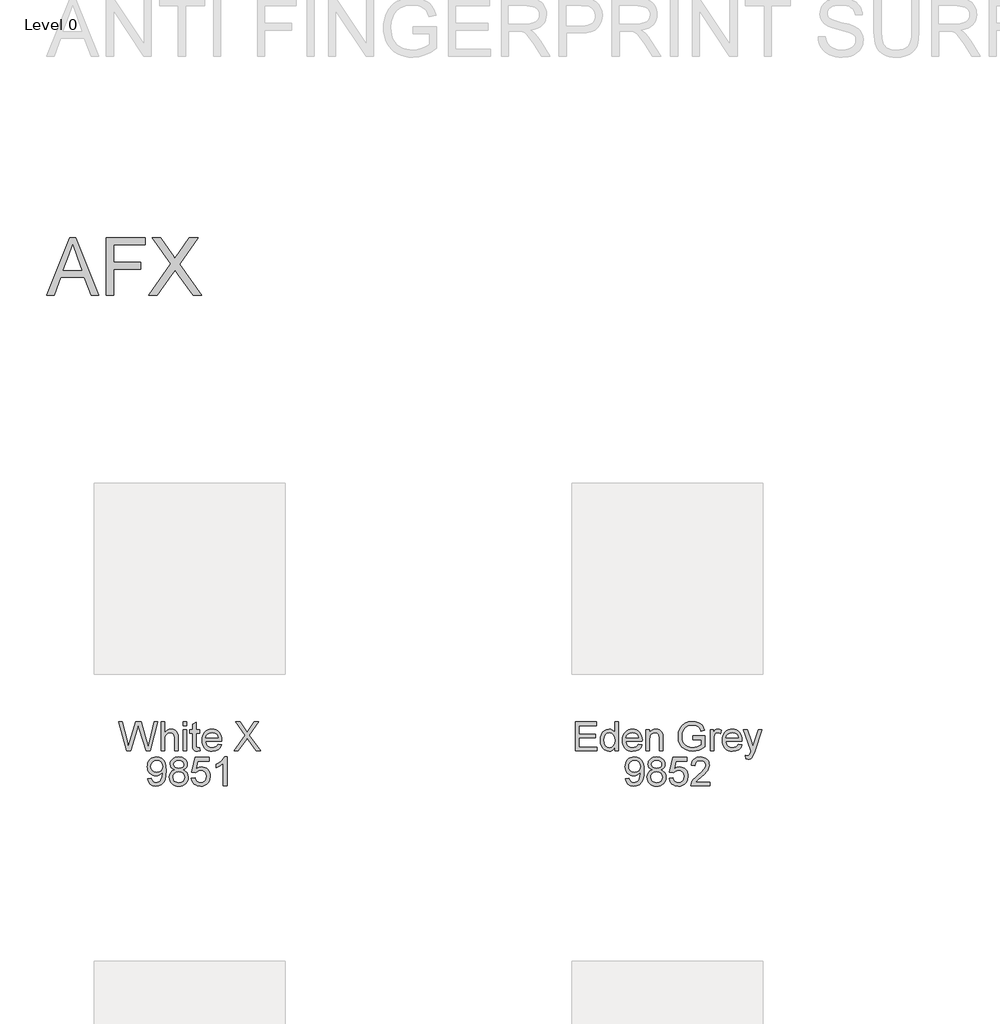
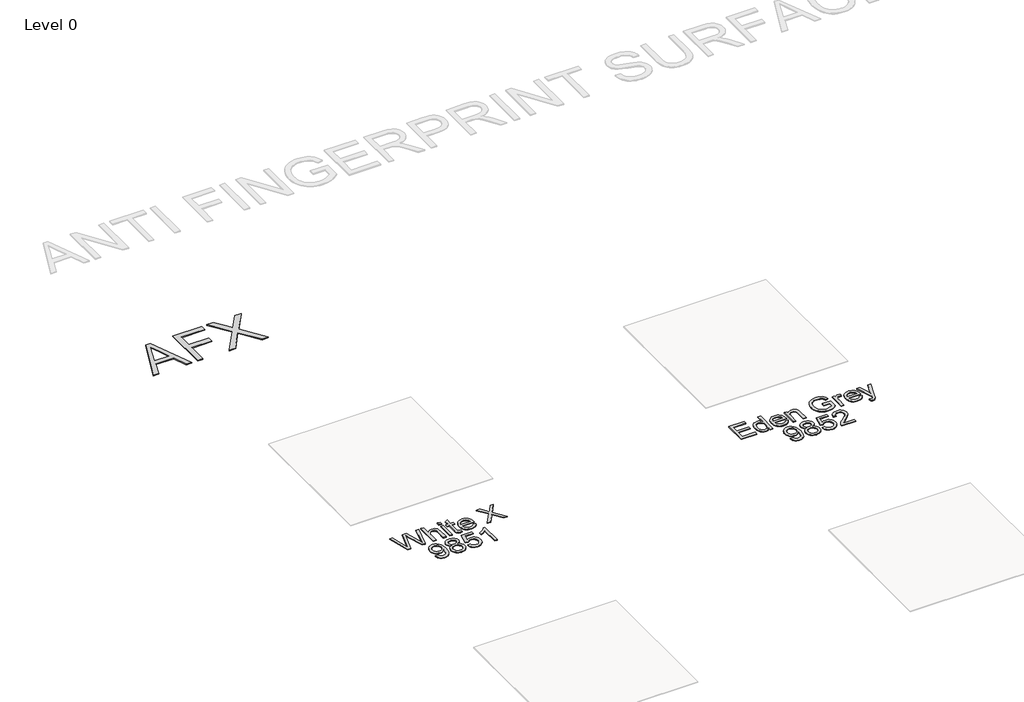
# One storey, part 3 of 8: 3 proxies.
"""IFC4 building model written with IfcOpenShell, lengths in millimetres."""

from ifc_helpers import new_model, si_unit, origin, origin_with_axes, place, context, project, spatial, polyline, outline, extrude, element, save

model = new_model("IFC4")

# Units and contexts
model_context = context("Model", 3, world=origin())
ifc_project = project(units=[si_unit("LENGTHUNIT", "METRE", prefix="MILLI")], contexts=[model_context])

# Site, building, storey
site = spatial("IfcSite", under=ifc_project)
building = spatial("IfcBuilding", under=site)
storey = spatial("IfcBuildingStorey", under=building, Name="Level 0", Elevation=0.0)

# Proxies
placement = place(None, origin())
element("IfcBuildingElementProxy", 1, Name="300mm Arial", ObjectType="300mm Arial", at=placement, inside=storey, context=model_context, shape_type="SweptSolid", body=[
    extrude(outline(polyline([(-10110.1233209, -7002.860494), (-10192.3081586, -6701.4915635), (-10153.4598199, -6701.4915635), (-10105.7823133, -6899.5592297), (-10091.0670335, -6960.7012173), (-10075.3216841, -6906.622564), (-10015.5776481, -6701.4915635), (-9959.5860084, -6701.4915635), (-9916.175933, -6850.189466), (-9897.5794981, -6905.3717653), (-9883.8758938, -6960.7012173), (-9869.6020724, -6901.3250633), (-9821.4831074, -6701.4915635), (-9782.6347688, -6701.4915635), (-9864.8931829, -7002.860494), (-9905.1394731, -7002.860494), (-9977.391497, -6770.359073), (-9987.4714637, -6737.9118811), (-9998.8022291, -6776.9809489), (-10064.6531063, -7002.860494), (-10110.1233209, -7002.860494)])), origin_with_axes(), (0.0, 0.0, 1.0), 10.0),
    extrude(outline(polyline([(-9749.672542, -7002.860494), (-9749.672542, -6701.4915635), (-9712.0014257, -6701.4915635), (-9712.0014257, -6812.2976205), (-9698.1644641, -6796.7821973), (-9682.6260484, -6785.6997522), (-9665.3861784, -6779.0502852), (-9646.4448541, -6776.8337961), (-9623.6913527, -6779.2526203), (-9604.1384247, -6786.5090926), (-9588.7425632, -6798.0329961), (-9578.4602614, -6813.2541137), (-9572.66612, -6834.1682051), (-9570.7347395, -6862.7710302), (-9570.7347395, -7002.860494), (-9608.4058558, -7002.860494), (-9608.4058558, -6866.6705794), (-9611.4040941, -6843.0893435), (-9620.3988089, -6826.9393239), (-9634.8933595, -6817.6135153), (-9654.3911052, -6814.5049125), (-9670.3111986, -6816.6018398), (-9685.2564046, -6822.8926219), (-9697.6356338, -6832.7702535), (-9705.8577964, -6845.6277292), (-9710.4655184, -6862.7158479), (-9712.0014257, -6885.2854083), (-9712.0014257, -7002.860494), (-9749.672542, -7002.860494)])), origin_with_axes(), (0.0, 0.0, 1.0), 10.0),
    extrude(outline(polyline([(-9518.9369546, -6739.1626798), (-9518.9369546, -6701.4915635), (-9481.2658383, -6701.4915635), (-9481.2658383, -6739.1626798), (-9518.9369546, -6739.1626798)])), origin_with_axes(), (0.0, 0.0, 1.0), 10.0),
    extrude(outline(polyline([(-9518.9369546, -7002.860494), (-9518.9369546, -6781.5426857), (-9481.2658383, -6781.5426857), (-9481.2658383, -7002.860494), (-9518.9369546, -7002.860494)])), origin_with_axes(), (0.0, 0.0, 1.0), 10.0),
    extrude(outline(polyline([(-9344.7080417, -6971.4433716), (-9339.9991522, -7003.96414), (-9368.178913, -7007.5693835), (-9386.2603131, -7006.005885), (-9399.7431882, -7001.3153896), (-9409.2713319, -6994.0865084), (-9415.4885376, -6984.9078526), (-9418.9098401, -6969.1441091), (-9420.0502743, -6942.1599648), (-9420.0502743, -6819.213802), (-9448.3036115, -6819.213802), (-9448.3036115, -6781.5426857), (-9420.0502743, -6781.5426857), (-9420.0502743, -6727.758338), (-9382.379158, -6705.6118419), (-9382.379158, -6781.5426857), (-9344.7080417, -6781.5426857), (-9344.7080417, -6819.213802), (-9382.379158, -6819.213802), (-9382.379158, -6941.0563188), (-9380.3925952, -6960.4804881), (-9373.9546603, -6967.3598814), (-9361.1155787, -6969.8982672), (-9344.7080417, -6971.4433716)])), origin_with_axes(), (0.0, 0.0, 1.0), 10.0),
    extrude(outline(polyline([(-9152.085029, -6936.9360404), (-9115.1496767, -6941.64493), (-9128.4578079, -6969.4752029), (-9149.6937961, -6990.2789297), (-9178.3793946, -7003.2467701), (-9214.036357, -7007.5693835), (-9237.4106593, -7005.7046817), (-9258.2373787, -7000.1105761), (-9276.5165154, -6990.7870668), (-9292.2480692, -6977.7341537), (-9304.8986113, -6961.3151204), (-9313.9347128, -6941.8932503), (-9319.3563737, -6919.4685435), (-9321.163594, -6894.0409998), (-9319.3379796, -6867.7512327), (-9313.8611364, -6844.5792656), (-9304.7330644, -6824.5250983), (-9291.9537636, -6807.5887309), (-9276.2635965, -6794.133447), (-9258.4029256, -6784.5225298), (-9238.371751, -6778.7559796), (-9216.1700726, -6776.8337961), (-9194.6834648, -6778.751381), (-9175.2523977, -6784.5041357), (-9157.8768712, -6794.0920602), (-9142.5568853, -6807.5151545), (-9130.0511968, -6824.4147337), (-9121.1185621, -6844.4321128), (-9115.7589813, -6867.5672917), (-9113.9724543, -6893.8202706), (-9114.1931835, -6903.9738137), (-9283.4924777, -6903.9738137), (-9276.9717693, -6932.1719686), (-9261.8242282, -6952.902119), (-9239.9628406, -6965.6492302), (-9213.300593, -6969.8982672), (-9193.2510243, -6967.9300985), (-9176.3652407, -6962.0255925), (-9162.6432423, -6951.8168672), (-9152.085029, -6936.9360404)]), holes=[polyline([(-9283.4924777, -6866.3026974), (-9151.6435706, -6866.3026974), (-9156.7387363, -6846.4002814), (-9166.7267324, -6832.1632482), (-9188.6892875, -6818.9194964), (-9216.3172254, -6814.5049125), (-9241.7102801, -6818.0273826), (-9262.707145, -6828.5947929), (-9277.3028631, -6845.0667092), (-9283.4924777, -6866.3026974)])]), origin_with_axes(), (0.0, 0.0, 1.0), 10.0),
    extrude(outline(polyline([(-8986.8324368, -7002.860494), (-8870.6553027, -6838.6379713), (-8967.9968786, -6701.4915635), (-8922.8209696, -6701.4915635), (-8868.0065523, -6778.6732061), (-8849.5388762, -6808.7659533), (-8827.9074149, -6778.1581713), (-8773.6816088, -6701.4915635), (-8727.8435122, -6701.4915635), (-8825.1850881, -6839.0794297), (-8709.007954, -7002.860494), (-8754.183863, -7002.860494), (-8831.5862348, -6893.6731178), (-8847.6994662, -6871.0115869), (-8865.4313784, -6895.8804098), (-8940.9943402, -7002.860494), (-8986.8324368, -7002.860494)])), origin_with_axes(), (0.0, 0.0, 1.0), 10.0),
    extrude(outline(polyline([(-9888.5847834, -7293.4427149), (-9850.9136671, -7288.7338254), (-9844.4757321, -7310.1169663), (-9833.9910953, -7324.6758963), (-9819.7172739, -7333.0360146), (-9801.9117853, -7335.8227207), (-9785.9365097, -7334.029296), (-9771.4143679, -7328.6490218), (-9759.3478385, -7320.2705094), (-9750.7393998, -7309.4823699), (-9738.4153529, -7276.7408723), (-9732.9706994, -7233.0364913), (-9733.1914286, -7225.6788514), (-9746.2420424, -7241.6081418), (-9763.320964, -7254.2264942), (-9783.1957888, -7262.4486568), (-9804.6341121, -7265.1893777), (-9822.5292719, -7263.5155146), (-9838.9850934, -7258.4939254), (-9854.0015766, -7250.12461), (-9867.5787214, -7238.4075684), (-9878.8290127, -7223.9544045), (-9886.864935, -7207.3767221), (-9891.6864884, -7188.6745212), (-9893.2936729, -7167.8478018), (-9891.6083135, -7146.326705), (-9886.5522353, -7127.0129003), (-9878.1254384, -7109.9063875), (-9866.3279227, -7095.0071667), (-9851.9920212, -7082.9360387), (-9835.9500669, -7074.3138045), (-9818.2020599, -7069.1404639), (-9798.7480001, -7067.4160171), (-9770.6510128, -7071.3523544), (-9745.074017, -7083.1613665), (-9723.681679, -7102.254442), (-9708.1386647, -7128.0429699), (-9698.6749004, -7163.6907352), (-9695.5203123, -7212.3615232), (-9698.6657034, -7263.96617), (-9708.1018765, -7303.8537754), (-9723.7460584, -7333.8269609), (-9745.5154754, -7355.6883485), (-9772.4720286, -7369.0424649), (-9803.6776189, -7373.4938371), (-9835.8856876, -7368.2423216), (-9861.5822449, -7352.4877751), (-9879.5532804, -7327.2234791), (-9888.5847834, -7293.4427149)]), holes=[polyline([(-9733.1914286, -7166.964885), (-9737.2565246, -7141.4338745), (-9749.4518128, -7121.788976), (-9768.3793414, -7109.262594), (-9792.641159, -7105.0871334), (-9817.8042875, -7109.5844908), (-9837.9642208, -7123.0765629), (-9851.2079727, -7143.7239399), (-9855.6225566, -7169.6872117), (-9851.447096, -7192.964945), (-9838.920714, -7211.4418182), (-9819.2574214, -7223.4991506), (-9793.6712286, -7227.5182614), (-9769.6025491, -7223.4991506), (-9750.224365, -7211.4418182), (-9737.4496627, -7192.2843633), (-9733.1914286, -7166.964885)])]), origin_with_axes(), (0.0, 0.0, 1.0), 10.0),
    extrude(outline(polyline([(-9607.6700918, -7202.7965913), (-9627.8392222, -7192.8637774), (-9641.993482, -7179.3992964), (-9650.3536003, -7162.6790597), (-9653.1403065, -7142.9789789), (-9651.6227932, -7127.6153071), (-9647.0702535, -7113.5300252), (-9639.4826874, -7100.7231332), (-9628.8600948, -7089.1946312), (-9615.712912, -7079.6664875), (-9600.5515752, -7072.8606706), (-9564.18644, -7067.4160171), (-9527.6005756, -7072.9894293), (-9512.273692, -7079.9561946), (-9498.9241741, -7089.709666), (-9488.1084434, -7101.4634957), (-9480.3829215, -7114.4313361), (-9475.7476084, -7128.613187), (-9474.202504, -7144.0090485), (-9476.9524219, -7163.0745329), (-9485.2021757, -7179.509661), (-9499.0437357, -7192.8913686), (-9518.5690726, -7202.7965913), (-9495.3833099, -7214.7435591), (-9478.5067233, -7232.3375155), (-9468.2152245, -7254.732332), (-9464.7847249, -7281.0818799), (-9466.4861791, -7299.8714528), (-9471.5905418, -7317.0975272), (-9480.097813, -7332.7601031), (-9492.0079926, -7346.8591806), (-9506.6956812, -7358.5118428), (-9523.5354796, -7366.8351729), (-9542.5273876, -7371.829171), (-9563.6714052, -7373.4938371), (-9584.8154229, -7371.8222732), (-9603.8073309, -7366.8075818), (-9620.6471292, -7358.4497627), (-9635.3348179, -7346.748816), (-9647.2449975, -7332.5508703), (-9655.7522686, -7316.702054), (-9660.8566313, -7299.2023674), (-9662.5580855, -7280.0518103), (-9658.9896302, -7252.6813898), (-9648.2842641, -7230.1670117), (-9630.9938103, -7213.2812282), (-9607.6700918, -7202.7965913)]), holes=[polyline([(-9615.4691901, -7144.0826249), (-9612.130661, -7160.52695), (-9602.1150737, -7173.6603373), (-9585.7167338, -7182.268776), (-9563.2299468, -7185.1382555), (-9541.2673917, -7182.2871701), (-9525.1173721, -7173.7339137), (-9515.1845583, -7161.0419848), (-9511.8736203, -7145.774882), (-9515.2949229, -7129.9283651), (-9525.5588305, -7116.822569), (-9541.9295793, -7108.0209923), (-9563.6714052, -7105.0871334), (-9585.5511869, -7107.9566129), (-9601.8943445, -7116.5650516), (-9612.0754787, -7129.1834041), (-9615.4691901, -7144.0826249)]), polyline([(-9624.8869692, -7278.7274351), (-9618.5961871, -7307.0911369), (-9609.8865809, -7319.2588339), (-9596.3393264, -7328.317928), (-9580.1157304, -7333.9465226), (-9563.3770996, -7335.8227207), (-9537.7357246, -7331.8771864), (-9518.4954962, -7320.0405832), (-9506.465755, -7302.1155329), (-9502.4558412, -7279.9046575), (-9506.5945137, -7257.316703), (-9519.010531, -7238.9961796), (-9538.6922178, -7226.8560738), (-9564.6278984, -7222.8093718), (-9589.9105885, -7226.8008915), (-9608.9576788, -7238.7754504), (-9620.9046466, -7256.7464859), (-9624.8869692, -7278.7274351)])]), origin_with_axes(), (0.0, 0.0, 1.0), 10.0),
    extrude(outline(polyline([(-9431.8224982, -7288.7338254), (-9394.1513818, -7284.0249358), (-9387.2352003, -7306.6404815), (-9375.1686709, -7322.8364863), (-9358.0069758, -7332.5761621), (-9335.8052974, -7335.8227207), (-9308.802759, -7331.3069693), (-9288.5692492, -7317.7597148), (-9275.9325027, -7296.7444558), (-9271.7202539, -7269.8246908), (-9275.6657883, -7244.4776213), (-9287.5023914, -7225.0902402), (-9307.3220339, -7212.7845875), (-9335.2166862, -7208.6827032), (-9353.4912243, -7210.3197781), (-9368.2892776, -7215.2310027), (-9389.4424923, -7232.2271509), (-9427.1136086, -7227.5182614), (-9394.1513818, -7072.1249066), (-9248.1758062, -7072.1249066), (-9248.1758062, -7109.7960229), (-9363.6907526, -7109.7960229), (-9379.803984, -7192.790201), (-9352.8934161, -7176.4562404), (-9324.6952612, -7171.0115869), (-9306.3494459, -7172.6992456), (-9289.4981513, -7177.7622215), (-9274.1413772, -7186.2005148), (-9260.2791238, -7198.0141254), (-9248.8035048, -7212.4810848), (-9240.6066341, -7228.8794248), (-9235.6885117, -7247.2091452), (-9234.0491375, -7267.470246), (-9239.9536436, -7305.1413624), (-9247.3342761, -7321.9351754), (-9257.6671616, -7337.3678251), (-9273.3205405, -7353.1729553), (-9291.5858816, -7364.4623341), (-9312.4631848, -7371.2359613), (-9335.9524502, -7373.4938371), (-9372.9521819, -7367.6904986), (-9388.6308527, -7360.4363255), (-9402.4287267, -7350.2804832), (-9413.9089443, -7337.7288093), (-9422.6346453, -7323.2871418), (-9431.8224982, -7288.7338254)])), origin_with_axes(), (0.0, 0.0, 1.0), 10.0),
    extrude(outline(polyline([(-9059.8202246, -7368.7849475), (-9097.4913409, -7368.7849475), (-9097.4913409, -7133.9290818), (-9133.1758945, -7159.3497277), (-9172.8335735, -7178.3692268), (-9172.8335735, -7142.7582497), (-9143.2466641, -7126.6634124), (-9117.6144861, -7107.5151545), (-9097.4085675, -7087.1528861), (-9084.1004363, -7067.4160171), (-9059.8202246, -7067.4160171), (-9059.8202246, -7368.7849475)])), origin_with_axes(), (0.0, 0.0, 1.0), 10.0),
])
element("IfcBuildingElementProxy", 2, Name="300mm Arial", ObjectType="300mm Arial", at=placement, inside=storey, context=model_context, shape_type="SweptSolid", body=[
    extrude(outline(polyline([(-5411.2715221, -7002.860494), (-5411.2715221, -6701.4915635), (-5194.6626034, -6701.4915635), (-5194.6626034, -6739.1626798), (-5373.6004058, -6739.1626798), (-5373.6004058, -6828.6315811), (-5204.0803824, -6828.6315811), (-5204.0803824, -6866.3026974), (-5373.6004058, -6866.3026974), (-5373.6004058, -6965.1893777), (-5189.9537138, -6965.1893777), (-5189.9537138, -7002.860494), (-5411.2715221, -7002.860494)])), origin_with_axes(), (0.0, 0.0, 1.0), 10.0),
    extrude(outline(polyline([(-5001.5981323, -7002.860494), (-5001.5981323, -6967.3230932), (-5012.8691169, -6984.9308452), (-5026.5221375, -6997.507811), (-5042.5571939, -7005.0539904), (-5060.9742863, -7007.5693835), (-5085.3280744, -7003.9273518), (-5107.6217233, -6993.0012565), (-5126.4940696, -6975.5544529), (-5140.5839501, -6952.350296), (-5149.3579356, -6924.3268851), (-5152.2825975, -6892.422319), (-5149.5878619, -6860.9132261), (-5141.503655, -6832.4575538), (-5128.039174, -6808.6739828), (-5109.2036159, -6791.181194), (-5086.4225233, -6780.4206456), (-5061.1214391, -6776.8337961), (-5042.6905511, -6779.3997731), (-5026.3933788, -6787.0977038), (-5012.5794098, -6798.8975188), (-5001.5981323, -6813.7691485), (-5001.5981323, -6701.4915635), (-4963.927016, -6701.4915635), (-4963.927016, -7002.860494), (-5001.5981323, -7002.860494)]), holes=[polyline([(-5114.6114812, -6892.2751662), (-5110.3624442, -6926.350236), (-5097.615333, -6950.5844625), (-5079.0924746, -6965.069816), (-5057.5161956, -6969.8982672), (-5035.9491136, -6965.2905452), (-5017.8953047, -6951.4673793), (-5005.6724254, -6928.1712519), (-5001.5981323, -6895.1446458), (-5005.7460018, -6859.037028), (-5018.1896103, -6834.0026582), (-5036.7032717, -6819.3793489), (-5059.0612999, -6814.5049125), (-5080.8583081, -6819.1862108), (-5098.718979, -6833.230106), (-5110.6383557, -6857.3539678), (-5114.6114812, -6892.2751662)])]), origin_with_axes(), (0.0, 0.0, 1.0), 10.0),
    extrude(outline(polyline([(-4752.4684452, -6936.9360404), (-4715.5330928, -6941.64493), (-4728.841224, -6969.4752029), (-4750.0772122, -6990.2789297), (-4778.7628108, -7003.2467701), (-4814.4197731, -7007.5693835), (-4837.7940754, -7005.7046817), (-4858.6207949, -7000.1105761), (-4876.8999315, -6990.7870668), (-4892.6314853, -6977.7341537), (-4905.2820274, -6961.3151204), (-4914.3181289, -6941.8932503), (-4919.7397898, -6919.4685435), (-4921.5470101, -6894.0409998), (-4919.7213957, -6867.7512327), (-4914.2445525, -6844.5792656), (-4905.1164805, -6824.5250983), (-4892.3371797, -6807.5887309), (-4876.6470126, -6794.133447), (-4858.7863418, -6784.5225298), (-4838.7551671, -6778.7559796), (-4816.5534887, -6776.8337961), (-4795.0668809, -6778.751381), (-4775.6358138, -6784.5041357), (-4758.2602873, -6794.0920602), (-4742.9403015, -6807.5151545), (-4730.4346129, -6824.4147337), (-4721.5019782, -6844.4321128), (-4716.1423974, -6867.5672917), (-4714.3558705, -6893.8202706), (-4714.5765996, -6903.9738137), (-4883.8758938, -6903.9738137), (-4877.3551855, -6932.1719686), (-4862.2076443, -6952.902119), (-4840.3462567, -6965.6492302), (-4813.6840091, -6969.8982672), (-4793.6344404, -6967.9300985), (-4776.7486568, -6962.0255925), (-4763.0266584, -6951.8168672), (-4752.4684452, -6936.9360404)]), holes=[polyline([(-4883.8758938, -6866.3026974), (-4752.0269868, -6866.3026974), (-4757.1221524, -6846.4002814), (-4767.1101486, -6832.1632482), (-4789.0727037, -6818.9194964), (-4816.7006415, -6814.5049125), (-4842.0936962, -6818.0273826), (-4863.0905611, -6828.5947929), (-4877.6862793, -6845.0667092), (-4883.8758938, -6866.3026974)])]), origin_with_axes(), (0.0, 0.0, 1.0), 10.0),
    extrude(outline(polyline([(-4676.6847541, -7002.860494), (-4676.6847541, -6781.5426857), (-4639.0136378, -6781.5426857), (-4639.0136378, -6812.4447733), (-4625.9262359, -6796.8649708), (-4610.2084776, -6785.7365404), (-4591.8603631, -6779.0594822), (-4570.8818923, -6776.8337961), (-4552.3130486, -6778.6272209), (-4535.3077034, -6784.0074951), (-4521.1258525, -6792.303234), (-4511.0274917, -6802.8430532), (-4499.7335145, -6830.5445674), (-4497.7469517, -6866.964885), (-4497.7469517, -7002.860494), (-4535.418068, -7002.860494), (-4535.418068, -6872.0416565), (-4539.7590755, -6838.7115477), (-4545.7647491, -6828.7879309), (-4555.0997547, -6821.0900002), (-4567.0651166, -6816.1511844), (-4580.961859, -6814.5049125), (-4603.0255817, -6818.2021265), (-4621.8335487, -6829.2937687), (-4629.3498377, -6838.3482643), (-4634.7186155, -6850.7228949), (-4639.0136378, -6885.4325611), (-4639.0136378, -7002.860494), (-4676.6847541, -7002.860494)])), origin_with_axes(), (0.0, 0.0, 1.0), 10.0),
    extrude(outline(polyline([(-4182.2513526, -6885.1382555), (-4182.2513526, -6847.4671392), (-4059.8202246, -6847.4671392), (-4059.8202246, -6960.1126061), (-4089.572681, -6980.8059684), (-4120.2632364, -6995.6500069), (-4151.8183146, -7004.5895394), (-4184.164339, -7007.5693835), (-4226.4247832, -7002.8329028), (-4264.6201313, -6988.6234608), (-4296.3499534, -6965.437698), (-4319.2138194, -6933.7722553), (-4333.0369854, -6895.7884393), (-4337.6447074, -6853.6475567), (-4333.0553795, -6811.2031715), (-4319.2873958, -6771.7202364), (-4296.9109735, -6738.6016598), (-4266.4963295, -6715.2503502), (-4229.4506126, -6701.399593), (-4187.1809714, -6696.782674), (-4156.1501251, -6699.4590155), (-4128.2462757, -6707.4880401), (-4104.7478133, -6720.2903335), (-4086.9331277, -6737.2864817), (-4073.7537552, -6759.295022), (-4064.1612322, -6787.134492), (-4098.8892925, -6796.9201531), (-4106.6424056, -6777.0637224), (-4116.0693817, -6762.0817281), (-4128.5405813, -6750.7877509), (-4145.4263649, -6741.9953712), (-4165.5587071, -6736.3391855), (-4187.7695826, -6734.4537903), (-4213.7696426, -6736.4863383), (-4235.9989121, -6742.5839824), (-4254.3746178, -6751.9833674), (-4268.8139861, -6763.9211381), (-4288.2013672, -6792.9470275), (-4297.0305351, -6821.3843058), (-4299.9735911, -6852.1024524), (-4296.4327269, -6888.1272967), (-4285.8101343, -6917.7693885), (-4268.42771, -6940.8171955), (-4244.6073508, -6957.0591856), (-4216.7310926, -6966.6884968), (-4187.1809714, -6969.8982672), (-4161.0889409, -6967.4794431), (-4135.6407038, -6960.2229707), (-4113.540193, -6950.2257775), (-4097.4913409, -6939.5847908), (-4097.4913409, -6885.1382555), (-4182.2513526, -6885.1382555)])), origin_with_axes(), (0.0, 0.0, 1.0), 10.0),
    extrude(outline(polyline([(-4003.3135502, -7002.860494), (-4003.3135502, -6781.5426857), (-3970.3513234, -6781.5426857), (-3970.3513234, -6814.2841833), (-3958.1744294, -6795.3014723), (-3946.9540285, -6784.1178596), (-3935.6968395, -6778.654812), (-3923.4095808, -6776.8337961), (-3904.6475991, -6779.7400639), (-3885.5913117, -6788.4588672), (-3898.172876, -6822.2304343), (-3911.4166278, -6816.4362929), (-3924.6603796, -6814.5049125), (-3935.9083716, -6816.3627165), (-3945.9607471, -6821.9361288), (-3954.0817422, -6830.8020848), (-3959.5355927, -6842.5375205), (-3964.1157236, -6863.5803706), (-3965.6424339, -6886.5362071), (-3965.6424339, -7002.860494), (-4003.3135502, -7002.860494)])), origin_with_axes(), (0.0, 0.0, 1.0), 10.0),
    extrude(outline(polyline([(-3707.0949677, -6936.9360404), (-3670.1596153, -6941.64493), (-3683.4677465, -6969.4752029), (-3704.7037347, -6990.2789297), (-3733.3893333, -7003.2467701), (-3769.0462956, -7007.5693835), (-3792.4205979, -7005.7046817), (-3813.2473174, -7000.1105761), (-3831.526454, -6990.7870668), (-3847.2580078, -6977.7341537), (-3859.9085499, -6961.3151204), (-3868.9446514, -6941.8932503), (-3874.3663123, -6919.4685435), (-3876.1735326, -6894.0409998), (-3874.3479182, -6867.7512327), (-3868.871075, -6844.5792656), (-3859.743003, -6824.5250983), (-3846.9637022, -6807.5887309), (-3831.2735351, -6794.133447), (-3813.4128643, -6784.5225298), (-3793.3816896, -6778.7559796), (-3771.1800112, -6776.8337961), (-3749.6934034, -6778.751381), (-3730.2623363, -6784.5041357), (-3712.8868098, -6794.0920602), (-3697.566824, -6807.5151545), (-3685.0611354, -6824.4147337), (-3676.1285007, -6844.4321128), (-3670.7689199, -6867.5672917), (-3668.982393, -6893.8202706), (-3669.2031222, -6903.9738137), (-3838.5024163, -6903.9738137), (-3831.981708, -6932.1719686), (-3816.8341668, -6952.902119), (-3794.9727793, -6965.6492302), (-3768.3105317, -6969.8982672), (-3748.2609629, -6967.9300985), (-3731.3751793, -6962.0255925), (-3717.6531809, -6951.8168672), (-3707.0949677, -6936.9360404)]), holes=[polyline([(-3838.5024163, -6866.3026974), (-3706.6535093, -6866.3026974), (-3711.7486749, -6846.4002814), (-3721.7366711, -6832.1632482), (-3743.6992262, -6818.9194964), (-3771.327164, -6814.5049125), (-3796.7202187, -6818.0273826), (-3817.7170836, -6828.5947929), (-3832.3128018, -6845.0667092), (-3838.5024163, -6866.3026974)])]), origin_with_axes(), (0.0, 0.0, 1.0), 10.0),
    extrude(outline(polyline([(-3631.3112766, -7087.6205057), (-3636.0201662, -7051.3473409), (-3616.8903024, -7054.6582789), (-3599.0112375, -7050.5012124), (-3588.048354, -7038.9129295), (-3577.7476582, -7011.1746271), (-3574.8046022, -7002.0511536), (-3654.8557243, -6781.5426857), (-3615.1244689, -6781.5426857), (-3572.6708866, -6904.4152721), (-3557.8820304, -6953.5643066), (-3543.0931742, -6910.1542312), (-3499.4623696, -6781.5426857), (-3460.0254197, -6781.5426857), (-3537.0599095, -7008.1579947), (-3557.07269, -7057.3070293), (-3567.3182036, -7072.9971964), (-3578.9248805, -7083.8681093), (-3592.4077557, -7090.2140737), (-3608.2818638, -7092.3293952), (-3631.3112766, -7087.6205057)])), origin_with_axes(), (0.0, 0.0, 1.0), 10.0),
    extrude(outline(polyline([(-4888.5847834, -7293.4427149), (-4850.9136671, -7288.7338254), (-4844.4757321, -7310.1169663), (-4833.9910953, -7324.6758963), (-4819.7172739, -7333.0360146), (-4801.9117853, -7335.8227207), (-4785.9365097, -7334.029296), (-4771.4143679, -7328.6490218), (-4759.3478385, -7320.2705094), (-4750.7393998, -7309.4823699), (-4738.4153529, -7276.7408723), (-4732.9706994, -7233.0364913), (-4733.1914286, -7225.6788514), (-4746.2420424, -7241.6081418), (-4763.320964, -7254.2264942), (-4783.1957888, -7262.4486568), (-4804.6341121, -7265.1893777), (-4822.5292719, -7263.5155146), (-4838.9850934, -7258.4939254), (-4854.0015766, -7250.12461), (-4867.5787214, -7238.4075684), (-4878.8290127, -7223.9544045), (-4886.864935, -7207.3767221), (-4891.6864884, -7188.6745212), (-4893.2936729, -7167.8478018), (-4891.6083135, -7146.326705), (-4886.5522353, -7127.0129003), (-4878.1254384, -7109.9063875), (-4866.3279227, -7095.0071667), (-4851.9920212, -7082.9360387), (-4835.9500669, -7074.3138045), (-4818.2020599, -7069.1404639), (-4798.7480001, -7067.4160171), (-4770.6510128, -7071.3523544), (-4745.074017, -7083.1613665), (-4723.681679, -7102.254442), (-4708.1386647, -7128.0429699), (-4698.6749004, -7163.6907352), (-4695.5203123, -7212.3615232), (-4698.6657034, -7263.96617), (-4708.1018765, -7303.8537754), (-4723.7460584, -7333.8269609), (-4745.5154754, -7355.6883485), (-4772.4720286, -7369.0424649), (-4803.6776189, -7373.4938371), (-4835.8856876, -7368.2423216), (-4861.5822449, -7352.4877751), (-4879.5532804, -7327.2234791), (-4888.5847834, -7293.4427149)]), holes=[polyline([(-4733.1914286, -7166.964885), (-4737.2565246, -7141.4338745), (-4749.4518128, -7121.788976), (-4768.3793414, -7109.262594), (-4792.641159, -7105.0871334), (-4817.8042875, -7109.5844908), (-4837.9642208, -7123.0765629), (-4851.2079727, -7143.7239399), (-4855.6225566, -7169.6872117), (-4851.447096, -7192.964945), (-4838.920714, -7211.4418182), (-4819.2574214, -7223.4991506), (-4793.6712286, -7227.5182614), (-4769.6025491, -7223.4991506), (-4750.224365, -7211.4418182), (-4737.4496627, -7192.2843633), (-4733.1914286, -7166.964885)])]), origin_with_axes(), (0.0, 0.0, 1.0), 10.0),
    extrude(outline(polyline([(-4607.6700918, -7202.7965913), (-4627.8392222, -7192.8637774), (-4641.993482, -7179.3992964), (-4650.3536003, -7162.6790597), (-4653.1403065, -7142.9789789), (-4651.6227932, -7127.6153071), (-4647.0702535, -7113.5300252), (-4639.4826874, -7100.7231332), (-4628.8600948, -7089.1946312), (-4615.712912, -7079.6664875), (-4600.5515752, -7072.8606706), (-4564.18644, -7067.4160171), (-4527.6005756, -7072.9894293), (-4512.273692, -7079.9561946), (-4498.9241741, -7089.709666), (-4488.1084434, -7101.4634957), (-4480.3829215, -7114.4313361), (-4475.7476084, -7128.613187), (-4474.202504, -7144.0090485), (-4476.9524219, -7163.0745329), (-4485.2021757, -7179.509661), (-4499.0437357, -7192.8913686), (-4518.5690726, -7202.7965913), (-4495.3833099, -7214.7435591), (-4478.5067233, -7232.3375155), (-4468.2152245, -7254.732332), (-4464.7847249, -7281.0818799), (-4466.4861791, -7299.8714528), (-4471.5905418, -7317.0975272), (-4480.097813, -7332.7601031), (-4492.0079926, -7346.8591806), (-4506.6956812, -7358.5118428), (-4523.5354796, -7366.8351729), (-4542.5273876, -7371.829171), (-4563.6714052, -7373.4938371), (-4584.8154229, -7371.8222732), (-4603.8073309, -7366.8075818), (-4620.6471292, -7358.4497627), (-4635.3348179, -7346.748816), (-4647.2449975, -7332.5508703), (-4655.7522686, -7316.702054), (-4660.8566313, -7299.2023674), (-4662.5580855, -7280.0518103), (-4658.9896302, -7252.6813898), (-4648.2842641, -7230.1670117), (-4630.9938103, -7213.2812282), (-4607.6700918, -7202.7965913)]), holes=[polyline([(-4615.4691901, -7144.0826249), (-4612.130661, -7160.52695), (-4602.1150737, -7173.6603373), (-4585.7167338, -7182.268776), (-4563.2299468, -7185.1382555), (-4541.2673917, -7182.2871701), (-4525.1173721, -7173.7339137), (-4515.1845583, -7161.0419848), (-4511.8736203, -7145.774882), (-4515.2949229, -7129.9283651), (-4525.5588305, -7116.822569), (-4541.9295793, -7108.0209923), (-4563.6714052, -7105.0871334), (-4585.5511869, -7107.9566129), (-4601.8943445, -7116.5650516), (-4612.0754787, -7129.1834041), (-4615.4691901, -7144.0826249)]), polyline([(-4624.8869692, -7278.7274351), (-4618.5961871, -7307.0911369), (-4609.8865809, -7319.2588339), (-4596.3393264, -7328.317928), (-4580.1157304, -7333.9465226), (-4563.3770996, -7335.8227207), (-4537.7357246, -7331.8771864), (-4518.4954962, -7320.0405832), (-4506.465755, -7302.1155329), (-4502.4558412, -7279.9046575), (-4506.5945137, -7257.316703), (-4519.010531, -7238.9961796), (-4538.6922178, -7226.8560738), (-4564.6278984, -7222.8093718), (-4589.9105885, -7226.8008915), (-4608.9576788, -7238.7754504), (-4620.9046466, -7256.7464859), (-4624.8869692, -7278.7274351)])]), origin_with_axes(), (0.0, 0.0, 1.0), 10.0),
    extrude(outline(polyline([(-4431.8224982, -7288.7338254), (-4394.1513818, -7284.0249358), (-4387.2352003, -7306.6404815), (-4375.1686709, -7322.8364863), (-4358.0069758, -7332.5761621), (-4335.8052974, -7335.8227207), (-4308.802759, -7331.3069693), (-4288.5692492, -7317.7597148), (-4275.9325027, -7296.7444558), (-4271.7202539, -7269.8246908), (-4275.6657883, -7244.4776213), (-4287.5023914, -7225.0902402), (-4307.3220339, -7212.7845875), (-4335.2166862, -7208.6827032), (-4353.4912243, -7210.3197781), (-4368.2892776, -7215.2310027), (-4389.4424923, -7232.2271509), (-4427.1136086, -7227.5182614), (-4394.1513818, -7072.1249066), (-4248.1758062, -7072.1249066), (-4248.1758062, -7109.7960229), (-4363.6907526, -7109.7960229), (-4379.803984, -7192.790201), (-4352.8934161, -7176.4562404), (-4324.6952612, -7171.0115869), (-4306.3494459, -7172.6992456), (-4289.4981513, -7177.7622215), (-4274.1413772, -7186.2005148), (-4260.2791238, -7198.0141254), (-4248.8035048, -7212.4810848), (-4240.6066341, -7228.8794248), (-4235.6885117, -7247.2091452), (-4234.0491375, -7267.470246), (-4239.9536436, -7305.1413624), (-4247.3342761, -7321.9351754), (-4257.6671616, -7337.3678251), (-4273.3205405, -7353.1729553), (-4291.5858816, -7364.4623341), (-4312.4631848, -7371.2359613), (-4335.9524502, -7373.4938371), (-4372.9521819, -7367.6904986), (-4388.6308527, -7360.4363255), (-4402.4287267, -7350.2804832), (-4413.9089443, -7337.7288093), (-4422.6346453, -7323.2871418), (-4431.8224982, -7288.7338254)])), origin_with_axes(), (0.0, 0.0, 1.0), 10.0),
    extrude(outline(polyline([(-4008.0224397, -7331.1138312), (-4008.0224397, -7368.7849475), (-4205.7958003, -7368.7849475), (-4201.7490984, -7342.8124787), (-4192.460078, -7322.5145896), (-4178.8668383, -7302.8237058), (-4159.2035456, -7282.213117), (-4131.7043665, -7259.156113), (-4091.053406, -7223.0484951), (-4066.6628297, -7196.3954446), (-4054.4675416, -7174.7639833), (-4050.4024456, -7153.7211331), (-4054.2376154, -7134.8579838), (-4065.7431248, -7119.1770138), (-4083.4290517, -7108.6096035), (-4105.805474, -7105.0871334), (-4129.3039365, -7108.52683), (-4147.5600805, -7118.84592), (-4159.3415014, -7135.2350629), (-4163.4157945, -7156.8849183), (-4201.0869108, -7152.1760288), (-4191.9542402, -7115.7373171), (-4183.4078816, -7101.2013798), (-4172.2081742, -7089.1210548), (-4158.6126352, -7079.6251008), (-4142.8787821, -7072.8422765), (-4104.9961336, -7067.4160171), (-4084.8063099, -7068.9243332), (-4066.8375737, -7073.4492818), (-4051.089925, -7080.9908627), (-4037.5633639, -7091.549076), (-4026.6993488, -7104.3421723), (-4018.9393379, -7118.5884026), (-4014.2833314, -7134.2877667), (-4012.7313292, -7151.4402648), (-4014.4051923, -7169.4572855), (-4019.4267816, -7187.1616065), (-4028.3387229, -7205.1694302), (-4041.6836423, -7224.0969588), (-4062.9564186, -7246.6941104), (-4095.651931, -7275.7108027), (-4138.98843, -7311.9471793), (-4155.9845782, -7331.1138312), (-4008.0224397, -7331.1138312)])), origin_with_axes(), (0.0, 0.0, 1.0), 10.0),
])
element("IfcBuildingElementProxy", 3, Name="600mm Arial", ObjectType="600mm Arial", at=placement, inside=storey, context=model_context, shape_type="SweptSolid", body=[
    extrude(outline(polyline([(-10947.6550699, -2239.8720473), (-10707.0602451, -1637.1341864), (-10642.9016251, -1637.1341864), (-10402.3068003, -2239.8720473), (-10481.916464, -2239.8720473), (-10550.9311263, -2051.5164658), (-10799.1778967, -2051.5164658), (-10868.0454062, -2239.8720473), (-10947.6550699, -2239.8720473)]), holes=[polyline([(-10771.5131706, -1976.1742332), (-10578.4486996, -1976.1742332), (-10632.748082, -1827.9913655), (-10674.9809351, -1712.476419), (-10712.5048986, -1815.0419193), (-10771.5131706, -1976.1742332)])]), origin_with_axes(), (0.0, 0.0, 1.0), 10.0),
    extrude(outline(polyline([(-10321.8142197, -2239.8720473), (-10321.8142197, -1637.1341864), (-9916.8497194, -1637.1341864), (-9916.8497194, -1712.476419), (-10246.4719871, -1712.476419), (-10246.4719871, -1891.4142215), (-9963.9386148, -1891.4142215), (-9963.9386148, -1966.7564541), (-10246.4719871, -1966.7564541), (-10246.4719871, -2239.8720473), (-10321.8142197, -2239.8720473)])), origin_with_axes(), (0.0, 0.0, 1.0), 10.0),
    extrude(outline(polyline([(-9879.1786031, -2239.8720473), (-9646.824335, -1911.427002), (-9841.5074868, -1637.1341864), (-9751.1556688, -1637.1341864), (-9641.5268342, -1791.4974716), (-9615.3704244, -1830.6033277), (-9604.5914819, -1851.682966), (-9561.3285593, -1790.467402), (-9452.8769471, -1637.1341864), (-9361.2007539, -1637.1341864), (-9555.8839058, -1912.3099188), (-9323.5296376, -2239.8720473), (-9413.8814556, -2239.8720473), (-9568.6861992, -2021.497295), (-9600.912662, -1976.1742332), (-9636.3764863, -2025.9118789), (-9787.5024099, -2239.8720473), (-9879.1786031, -2239.8720473)])), origin_with_axes(), (0.0, 0.0, 1.0), 10.0),
])

save(model, "model.ifc")
